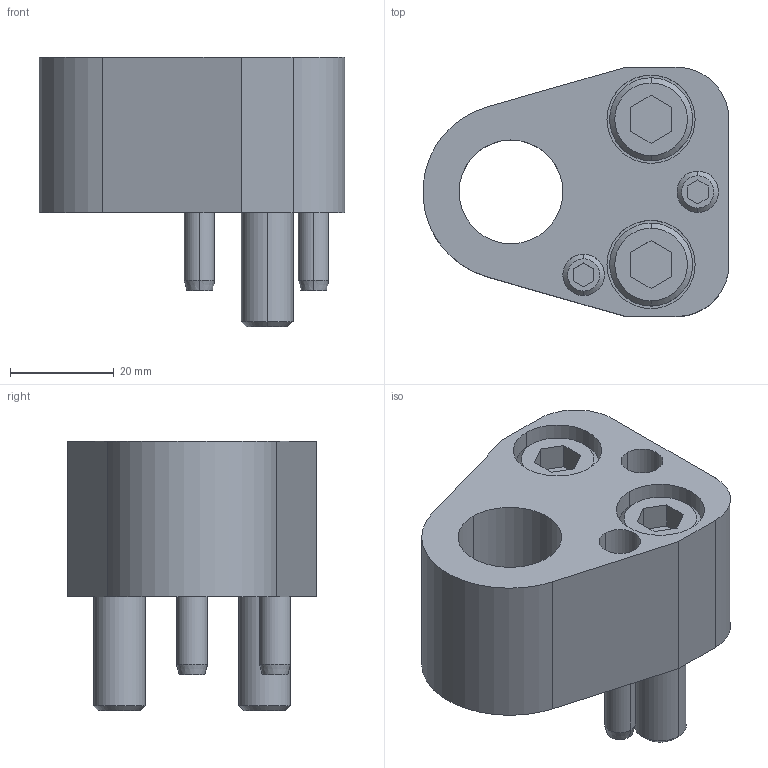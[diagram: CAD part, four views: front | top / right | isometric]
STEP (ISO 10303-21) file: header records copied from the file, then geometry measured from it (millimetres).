
FILE_DESCRIPTION(/* description */ (''),/* implementation_level */ '2;1');
FILE_NAME(/* name */ '3d_dpar20_02797_r00.stp',/* time_stamp */ '2011-01-10T14:15:54+09:00',/* author */ ('MISUMI'),/* organization */ (''),/* preprocessor_version */ 'ST-DEVELOPER v11',/* originating_system */ 'UGS - NX 5.0',/* authorisation */ '');
FILE_SCHEMA (('CONFIG_CONTROL_DESIGN'));
Length unit declared in the file: millimetre
Products named in the file (1): 3d_dpar20_02797_r00
Bounding box: 58.94 x 48 x 52 mm (x, y, z)
Volume: 59137 mm3; surface area: 21211.8 mm2
Topology: 7 solids, 7 shells, 135 faces, 292 edges, 186 vertices
Faces by surface type: plane 60, cylinder 49, cone 26
Entity records: 3816 total; most frequent: DIRECTION 684, CARTESIAN_POINT 662, ORIENTED_EDGE 584, EDGE_CURVE 292, AXIS2_PLACEMENT_3D 260, VERTEX_POINT 186, LINE 164, VECTOR 164
